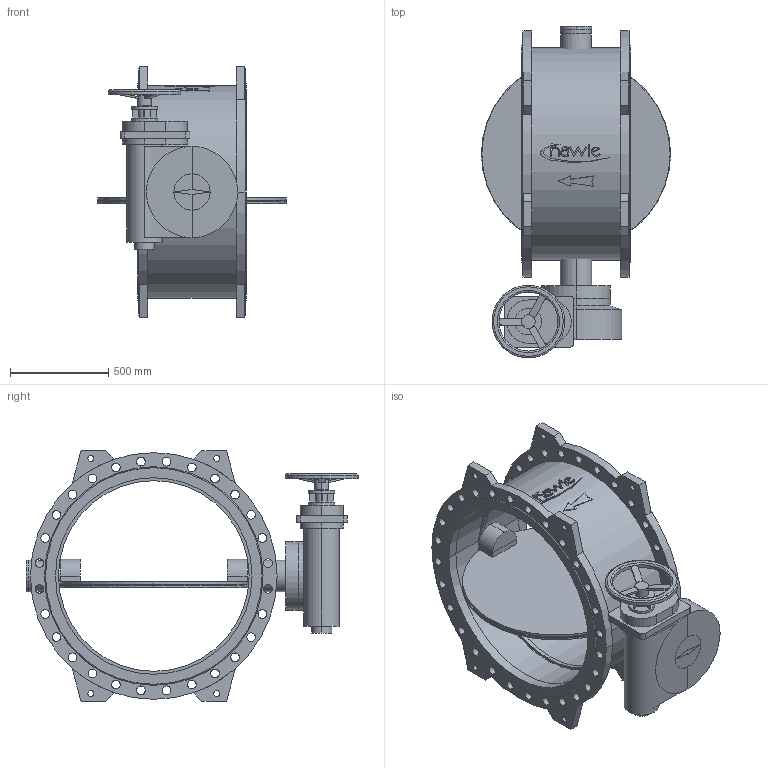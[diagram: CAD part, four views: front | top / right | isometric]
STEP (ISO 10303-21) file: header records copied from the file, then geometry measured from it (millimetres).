
FILE_DESCRIPTION(('STEP AP214'),'1');
FILE_NAME('S:/EK/USER/CAT6/3DHomepage_27-04-2012/neu_08-01-2013/9881K/9881K_PN16_DN1000_7800.STP','2013-03-11T15:53:11',(' '),(' '),'Spatial InterOp 3D',' ',' ');
FILE_SCHEMA(('automotive_design'));
Length unit declared in the file: millimetre
Products named in the file (53): 3D-Objekt
Bounding box: 962 x 1689 x 1276 mm (x, y, z)
Volume: 211809008.5 mm3; surface area: 11854915.1 mm2
Topology: 53 solids, 53 shells, 491 faces, 1148 edges, 766 vertices
Faces by surface type: cylinder 249, plane 230, cone 8, torus 4
Entity records: 19703 total; most frequent: DIRECTION 2780, CARTESIAN_POINT 2458, ORIENTED_EDGE 2296, EDGE_CURVE 1148, AXIS2_PLACEMENT_3D 1088, VERTEX_POINT 766, EDGE_LOOP 640, LINE 604
